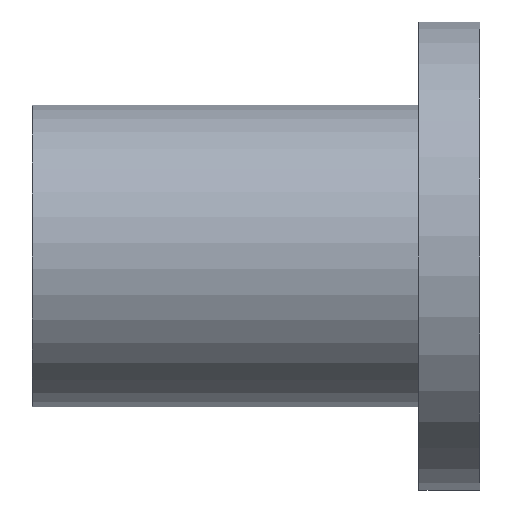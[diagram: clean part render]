
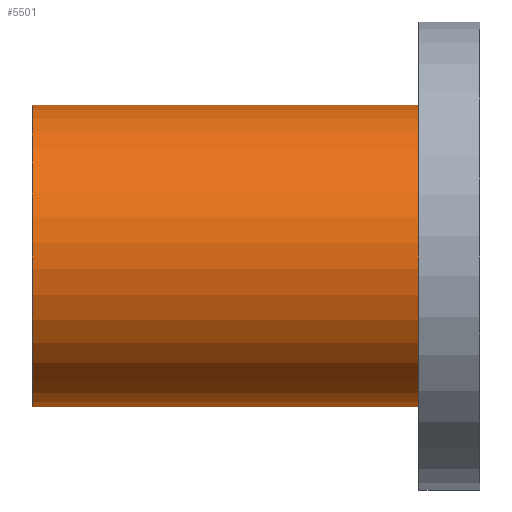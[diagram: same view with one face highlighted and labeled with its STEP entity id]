
A CAD part, front view. The second image highlights one B-rep face of the part: STEP entity #5501.
In plain terms, the highlighted cylindrical face has radius 20 mm (diameter 40 mm), a full revolution.
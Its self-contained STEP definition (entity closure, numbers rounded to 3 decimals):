
#79=CYLINDRICAL_SURFACE('',#5851,20.);
#108=CIRCLE('',#5852,20.);
#109=CIRCLE('',#5853,20.);
#1677=ORIENTED_EDGE('',*,*,#3267,.T.);
#1678=ORIENTED_EDGE('',*,*,#3268,.T.);
#3267=EDGE_CURVE('',#4062,#4062,#108,.T.);
#3268=EDGE_CURVE('',#4063,#4063,#109,.F.);
#4062=VERTEX_POINT('',#8743);
#4063=VERTEX_POINT('',#8745);
#4512=EDGE_LOOP('',(#1677));
#4513=EDGE_LOOP('',(#1678));
#4905=FACE_BOUND('',#4512,.T.);
#4906=FACE_BOUND('',#4513,.T.);
#5501=ADVANCED_FACE('',(#4905,#4906),#79,.T.);
#5851=AXIS2_PLACEMENT_3D('',#8741,#6354,#6355);
#5852=AXIS2_PLACEMENT_3D('',#8742,#6356,#6357);
#5853=AXIS2_PLACEMENT_3D('',#8744,#6358,#6359);
#6354=DIRECTION('',(1.,0.,0.));
#6355=DIRECTION('',(0.,0.707,-0.707));
#6356=DIRECTION('',(1.,0.,0.));
#6357=DIRECTION('',(0.,0.707,-0.707));
#6358=DIRECTION('',(1.,0.,0.));
#6359=DIRECTION('',(0.,0.707,-0.707));
#8741=CARTESIAN_POINT('',(-29.5,0.,0.));
#8742=CARTESIAN_POINT('',(-29.5,0.,0.));
#8743=CARTESIAN_POINT('',(-29.5,14.142,-14.142));
#8744=CARTESIAN_POINT('',(21.5,0.,0.));
#8745=CARTESIAN_POINT('',(21.5,14.142,-14.142));
